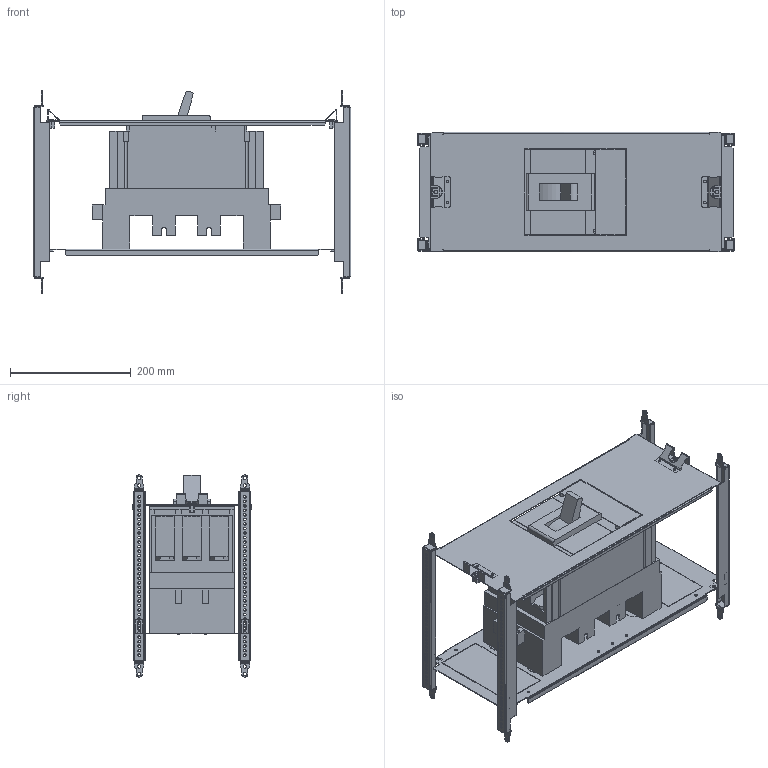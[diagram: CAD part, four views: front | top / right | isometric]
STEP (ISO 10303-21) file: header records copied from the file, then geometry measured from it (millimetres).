
FILE_DESCRIPTION(('CAx-IF Rec.Pracs.---Model Styling and Organization---1.2---2011-12-15','CAx-IF Rec.Pracs.---Geometric and Assembly Validation Properties---4.1---2014-06-16','CAx-IF Rec.Pracs.---PMI Polyline Presentation---2.0---2013-05-24'),'2;1');
FILE_NAME('R5PKIB7H63016 (P).stp','2021-07-29T03:07:58+03:00',(''),(''),'STEP Interface 4.4 by CT CoreTechnologie','3D_Evolution4.4 by CT CoreTechnologie','');
FILE_SCHEMA(('AUTOMOTIVE_DESIGN { 1 0 10303 214 1 1 1 1 }'));
Length unit declared in the file: millimetre
Products named in the file (1): R5PKIB7H63016 (P)
Bounding box: 526 x 198 x 335 mm (x, y, z)
Surface area: 970536.7 mm2 (no closed solid volume)
Topology: 0 solids, 46 shells, 1623 faces, 4786 edges, 3259 vertices
Faces by surface type: plane 907, cylinder 645, bspline 71
Entity records: 55989 total; most frequent: CARTESIAN_POINT 10616, ORIENTED_EDGE 9514, DIRECTION 9260, EDGE_CURVE 4766, VECTOR 3358, LINE 3358, VERTEX_POINT 3261, AXIS2_PLACEMENT_3D 2951
